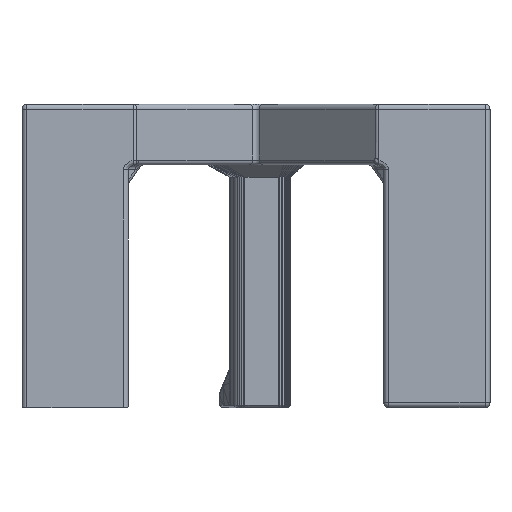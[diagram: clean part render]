
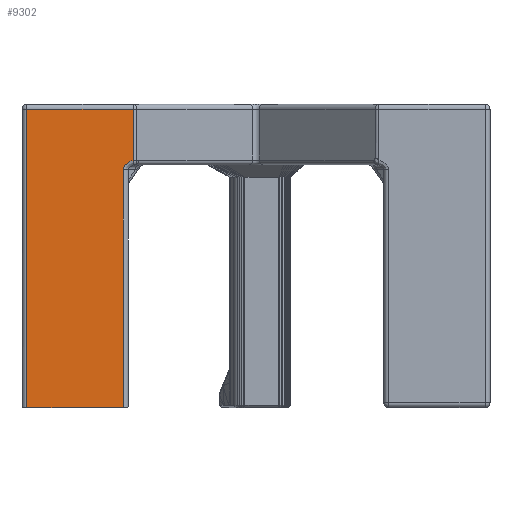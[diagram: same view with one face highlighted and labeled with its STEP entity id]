
A CAD part, front view. The second image highlights one B-rep face of the part: STEP entity #9302.
In plain terms, the highlighted planar face has unit normal (0, -1, 0).
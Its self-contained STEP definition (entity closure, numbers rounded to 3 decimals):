
#196=B_SPLINE_CURVE_WITH_KNOTS('',3,(#14426,#14427,#14428,#14429,#14430,
#14431,#14432,#14433,#14434,#14435,#14436,#14437,#14438,#14439,#14440,#14441,
#14442,#14443,#14444,#14445,#14446,#14447,#14448,#14449,#14450,#14451,#14452,
#14453,#14454,#14455,#14456,#14457,#14458,#14459,#14460,#14461,#14462,#14463,
#14464,#14465,#14466,#14467,#14468,#14469,#14470,#14471,#14472,#14473,#14474,
#14475,#14476,#14477,#14478,#14479,#14480,#14481,#14482,#14483,#14484,#14485,
#14486,#14487,#14488,#14489),.UNSPECIFIED.,.F.,.F.,(4,3,3,3,3,3,3,3,3,3,
3,3,3,3,3,3,3,3,3,3,3,4),(3.142,3.214,3.286,
3.308,3.379,3.451,3.468,3.539,
3.611,3.624,3.696,3.77,3.778,
3.856,3.933,4.011,4.089,4.17,
4.248,4.324,4.399,4.415),
 .UNSPECIFIED.);
#537=FACE_OUTER_BOUND('',#1160,.T.);
#1160=EDGE_LOOP('',(#6950,#6951,#6952,#6953,#6954,#6955));
#1788=LINE('',#13476,#2939);
#1901=LINE('',#14233,#3052);
#1924=LINE('',#14846,#3075);
#2035=LINE('',#16095,#3186);
#2036=LINE('',#16097,#3187);
#2939=VECTOR('',#10787,1000.);
#3052=VECTOR('',#11104,1000.);
#3075=VECTOR('',#11305,1000.);
#3186=VECTOR('',#11442,1000.);
#3187=VECTOR('',#11445,1000.);
#4066=VERTEX_POINT('',#13474);
#4067=VERTEX_POINT('',#13475);
#4250=VERTEX_POINT('',#14230);
#4251=VERTEX_POINT('',#14232);
#4256=VERTEX_POINT('',#14425);
#4280=VERTEX_POINT('',#14844);
#4833=EDGE_CURVE('',#4066,#4067,#1788,.T.);
#5044=EDGE_CURVE('',#4251,#4250,#1901,.T.);
#5058=EDGE_CURVE('',#4256,#4251,#196,.T.);
#5126=EDGE_CURVE('',#4250,#4280,#1924,.T.);
#5247=EDGE_CURVE('',#4067,#4256,#2035,.T.);
#5248=EDGE_CURVE('',#4280,#4066,#2036,.T.);
#6950=ORIENTED_EDGE('',*,*,#5247,.T.);
#6951=ORIENTED_EDGE('',*,*,#5058,.T.);
#6952=ORIENTED_EDGE('',*,*,#5044,.T.);
#6953=ORIENTED_EDGE('',*,*,#5126,.T.);
#6954=ORIENTED_EDGE('',*,*,#5248,.T.);
#6955=ORIENTED_EDGE('',*,*,#4833,.T.);
#8688=PLANE('',#10021);
#9302=ADVANCED_FACE('',(#537),#8688,.F.);
#10021=AXIS2_PLACEMENT_3D('',#16096,#11443,#11444);
#10787=DIRECTION('',(1.,0.,0.));
#11104=DIRECTION('',(0.,0.,1.));
#11305=DIRECTION('',(-1.,0.,0.));
#11442=DIRECTION('',(0.,0.,1.));
#11443=DIRECTION('center_axis',(0.,1.,0.));
#11444=DIRECTION('ref_axis',(0.,0.,1.));
#11445=DIRECTION('',(0.,0.,-1.));
#13474=CARTESIAN_POINT('',(-42.815,3.866,97.668));
#13475=CARTESIAN_POINT('',(-3.045,3.866,97.668));
#13476=CARTESIAN_POINT('',(-47.643,3.866,97.668));
#14230=CARTESIAN_POINT('',(0.955,3.866,220.668));
#14232=CARTESIAN_POINT('',(0.955,3.866,199.493));
#14233=CARTESIAN_POINT('',(0.955,3.866,222.668));
#14425=CARTESIAN_POINT('',(-3.045,3.866,195.668));
#14426=CARTESIAN_POINT('Ctrl Pts',(-3.045,3.866,195.668));
#14427=CARTESIAN_POINT('Ctrl Pts',(-3.045,3.866,195.759));
#14428=CARTESIAN_POINT('Ctrl Pts',(-3.041,3.866,195.85));
#14429=CARTESIAN_POINT('Ctrl Pts',(-3.032,3.866,195.941));
#14430=CARTESIAN_POINT('Ctrl Pts',(-3.023,3.866,196.034));
#14431=CARTESIAN_POINT('Ctrl Pts',(-3.01,3.866,196.126));
#14432=CARTESIAN_POINT('Ctrl Pts',(-2.991,3.866,196.22));
#14433=CARTESIAN_POINT('Ctrl Pts',(-2.986,3.866,196.247));
#14434=CARTESIAN_POINT('Ctrl Pts',(-2.98,3.866,196.275));
#14435=CARTESIAN_POINT('Ctrl Pts',(-2.974,3.866,196.303));
#14436=CARTESIAN_POINT('Ctrl Pts',(-2.953,3.866,196.394));
#14437=CARTESIAN_POINT('Ctrl Pts',(-2.927,3.866,196.486));
#14438=CARTESIAN_POINT('Ctrl Pts',(-2.897,3.866,196.578));
#14439=CARTESIAN_POINT('Ctrl Pts',(-2.866,3.866,196.671));
#14440=CARTESIAN_POINT('Ctrl Pts',(-2.831,3.866,196.764));
#14441=CARTESIAN_POINT('Ctrl Pts',(-2.79,3.866,196.856));
#14442=CARTESIAN_POINT('Ctrl Pts',(-2.781,3.866,196.877));
#14443=CARTESIAN_POINT('Ctrl Pts',(-2.771,3.866,196.899));
#14444=CARTESIAN_POINT('Ctrl Pts',(-2.761,3.866,196.921));
#14445=CARTESIAN_POINT('Ctrl Pts',(-2.719,3.866,197.012));
#14446=CARTESIAN_POINT('Ctrl Pts',(-2.671,3.866,197.102));
#14447=CARTESIAN_POINT('Ctrl Pts',(-2.619,3.866,197.192));
#14448=CARTESIAN_POINT('Ctrl Pts',(-2.566,3.866,197.283));
#14449=CARTESIAN_POINT('Ctrl Pts',(-2.508,3.866,197.372));
#14450=CARTESIAN_POINT('Ctrl Pts',(-2.446,3.866,197.461));
#14451=CARTESIAN_POINT('Ctrl Pts',(-2.435,3.866,197.476));
#14452=CARTESIAN_POINT('Ctrl Pts',(-2.424,3.866,197.492));
#14453=CARTESIAN_POINT('Ctrl Pts',(-2.412,3.866,197.507));
#14454=CARTESIAN_POINT('Ctrl Pts',(-2.348,3.866,197.595));
#14455=CARTESIAN_POINT('Ctrl Pts',(-2.278,3.866,197.682));
#14456=CARTESIAN_POINT('Ctrl Pts',(-2.204,3.866,197.767));
#14457=CARTESIAN_POINT('Ctrl Pts',(-2.129,3.866,197.853));
#14458=CARTESIAN_POINT('Ctrl Pts',(-2.05,3.866,197.937));
#14459=CARTESIAN_POINT('Ctrl Pts',(-1.965,3.866,198.019));
#14460=CARTESIAN_POINT('Ctrl Pts',(-1.956,3.866,198.029));
#14461=CARTESIAN_POINT('Ctrl Pts',(-1.946,3.866,198.038));
#14462=CARTESIAN_POINT('Ctrl Pts',(-1.937,3.866,198.047));
#14463=CARTESIAN_POINT('Ctrl Pts',(-1.847,3.866,198.132));
#14464=CARTESIAN_POINT('Ctrl Pts',(-1.753,3.866,198.215));
#14465=CARTESIAN_POINT('Ctrl Pts',(-1.654,3.866,198.295));
#14466=CARTESIAN_POINT('Ctrl Pts',(-1.556,3.866,198.375));
#14467=CARTESIAN_POINT('Ctrl Pts',(-1.453,3.866,198.453));
#14468=CARTESIAN_POINT('Ctrl Pts',(-1.346,3.866,198.527));
#14469=CARTESIAN_POINT('Ctrl Pts',(-1.238,3.866,198.601));
#14470=CARTESIAN_POINT('Ctrl Pts',(-1.126,3.866,198.673));
#14471=CARTESIAN_POINT('Ctrl Pts',(-1.011,3.866,198.741));
#14472=CARTESIAN_POINT('Ctrl Pts',(-0.895,3.866,198.809));
#14473=CARTESIAN_POINT('Ctrl Pts',(-0.777,3.866,198.873));
#14474=CARTESIAN_POINT('Ctrl Pts',(-0.655,3.866,198.934));
#14475=CARTESIAN_POINT('Ctrl Pts',(-0.528,3.866,198.997));
#14476=CARTESIAN_POINT('Ctrl Pts',(-0.399,3.866,199.057));
#14477=CARTESIAN_POINT('Ctrl Pts',(-0.267,3.866,199.112));
#14478=CARTESIAN_POINT('Ctrl Pts',(-0.142,3.866,199.164));
#14479=CARTESIAN_POINT('Ctrl Pts',(-0.015,3.866,199.212));
#14480=CARTESIAN_POINT('Ctrl Pts',(0.113,3.866,199.257));
#14481=CARTESIAN_POINT('Ctrl Pts',(0.239,3.866,199.301));
#14482=CARTESIAN_POINT('Ctrl Pts',(0.366,3.866,199.341));
#14483=CARTESIAN_POINT('Ctrl Pts',(0.494,3.866,199.378));
#14484=CARTESIAN_POINT('Ctrl Pts',(0.62,3.866,199.414));
#14485=CARTESIAN_POINT('Ctrl Pts',(0.746,3.866,199.446));
#14486=CARTESIAN_POINT('Ctrl Pts',(0.872,3.866,199.475));
#14487=CARTESIAN_POINT('Ctrl Pts',(0.899,3.866,199.481));
#14488=CARTESIAN_POINT('Ctrl Pts',(0.927,3.866,199.487));
#14489=CARTESIAN_POINT('Ctrl Pts',(0.955,3.866,199.493));
#14844=CARTESIAN_POINT('',(-42.815,3.866,220.668));
#14846=CARTESIAN_POINT('',(-47.643,3.866,220.668));
#16095=CARTESIAN_POINT('',(-3.045,3.866,197.668));
#16096=CARTESIAN_POINT('Origin',(-47.643,3.866,222.668));
#16097=CARTESIAN_POINT('',(-42.815,3.866,247.668));
